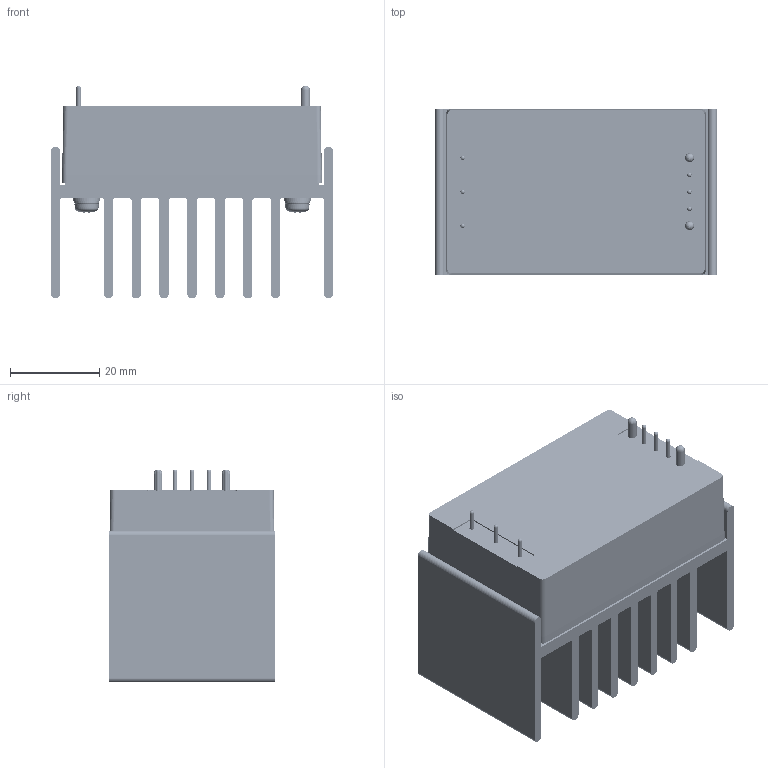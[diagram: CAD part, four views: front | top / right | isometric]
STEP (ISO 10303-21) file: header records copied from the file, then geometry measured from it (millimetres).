
FILE_DESCRIPTION(/* description */ (''),/* implementation_level */ '2;1');
FILE_NAME(/* name */ 'C:\Users\QIU\Desktop\MRZI100-I150+HS7.stp',/* time_stamp */ '2021-02-09T13:11:06+08:00',/* author */ ('QIU'),/* organization */ (''),/* preprocessor_version */ 'ST-DEVELOPER v15.2',/* originating_system */ 'Autodesk Inventor 2014',/* authorisation */ '');
FILE_SCHEMA (('AUTOMOTIVE_DESIGN { 1 0 10303 214 3 1 1 }'));
Products named in the file (70): MTQZI100S24主板(MTQZI100S-24Vo R-2); IC6; IC(PIN -16); T4; C40; 散熱片; T3; T5 BOBBIN(071-BB12)(0版)-\X2\8108885D8B8A58D3
56685E955EA7\X0\; T5  CORE; 橙-圈數; 紅-圈數; 紅-2B; 紅-2A; 橙-1A(上線); 紅-1B(下線); MTQZI100+I150脈衝變壓器組合-\X2\6D779DD781736B3E
\X0\(單組); 電感 ER CORE(\X2\6A196E964E0A96505C3A5BF8
\X0\); MTQZI100-I150電感成型圖(110S24線圈)-\X2\7DDA
5F91\X0\0.85mm; 084-IMTQZ-6(1版)-增加長寬; 電感 I CORE(標準上限尺寸); MTQZI100-110S24電感線圈固定膠帶; 電感絕緣盒(081-CMTQZ-5)(0版); MTQZI100-110S24電感外層固定膠帶(\X2\637762D37528
\X0\11.7); 電感點膠圖; 電感外圈平整膠帶; MTQZI100-110S24電感尺寸外觀圖(\X2\542B
9EDE81A0\X0\); MTQZI100-110S24主板半成品組合(1
08.12.24); T1 ER CORE(上限值); T1 I CORE(上限值); MTQZI100+I150 T1固定膠帶(\X2\8A554F30
\X0\T1絕緣盒用); MTQZI100+I150變壓器固定盒(081-CMT
QZ-6)(0版); 絕緣盒固定膠帶-\X2\694A526F7406
6B3E\X0\; Q100-2S R2; Q100-8P; Q100-2S-4SD R2; MTQZI100-110S05線圈板組合(108.8.1); 變壓器一二次側PIN(085-PIN-99)(2
版); 085-PIN-42; MTQZI100-110S05線圈板正面接腳; MTQZI100-110S24單組變壓器總組合 ...
Bounding box: 63.2 x 37.1 x 47.7 mm (x, y, z)
Volume: 46538.5 mm3; surface area: 72449 mm2
Topology: 109 solids, 232 shells, 8254 faces, 18397 edges, 10201 vertices
Faces by surface type: plane 2842, cylinder 2215, torus 2162, bspline 998, sphere 23, cone 14
Full cylindrical faces by diameter (mm): 0.14 x48, 0.15 x240, 0.5 x3, 0.6 x5, 0.7 x7, 0.85 x8, 0.852 x2, 1 x19, 1.05 x6, 1.1 x1, 1.2 x21, 1.3 x1, 1.4 x5, 1.5 x25, 1.7 x4, 2 x2, 2.05 x2, 2.1 x2, 2.5 x2, 2.693 x2, 3 x2, 3.2 x2, 3.5 x8, 4 x2, 4.7 x4, 4.8 x2, 6 x2, 8.8 x2, 9.1 x3, 10.2 x1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
Entity records: 237445 total; most frequent: CARTESIAN_POINT 58569, ORIENTED_EDGE 37452, DIRECTION 35363, EDGE_CURVE 17212, AXIS2_PLACEMENT_3D 13499, VERTEX_POINT 9666, EDGE_LOOP 8576, LINE 8365
